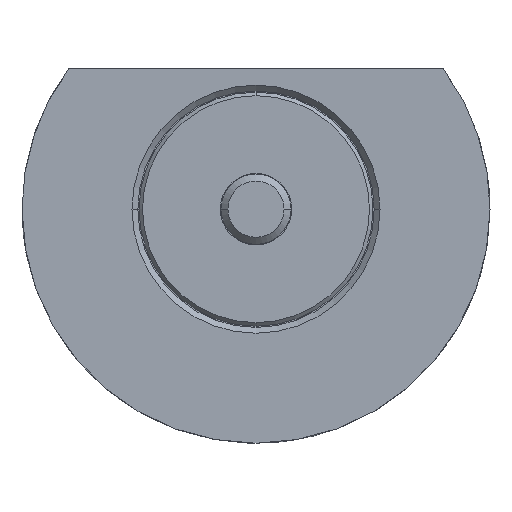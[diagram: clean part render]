
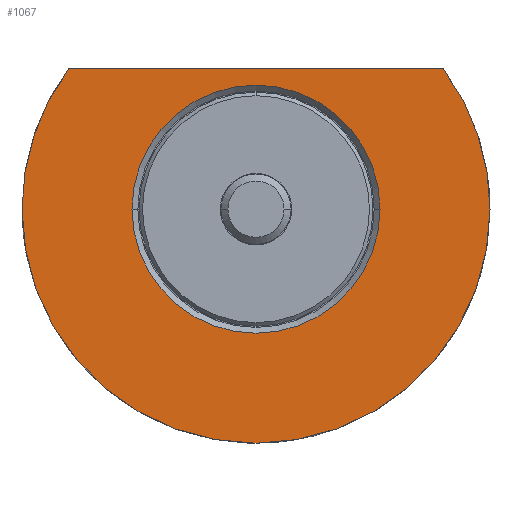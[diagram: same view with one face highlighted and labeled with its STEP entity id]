
A CAD part, front view. The second image highlights one B-rep face of the part: STEP entity #1067.
In plain terms, the highlighted planar face has unit normal (0, -1, 0).
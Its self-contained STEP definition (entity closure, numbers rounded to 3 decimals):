
#53 = EDGE_CURVE ( 'NONE', #1656, #985, #1366, .T. ) ;
#123 = DIRECTION ( 'NONE',  ( 0., 1., 0. ) ) ;
#125 = EDGE_LOOP ( 'NONE', ( #807, #2314, #851, #1103 ) ) ;
#203 = AXIS2_PLACEMENT_3D ( 'NONE', #419, #2456, #1895 ) ;
#204 = ORIENTED_EDGE ( 'NONE', *, *, #360, .T. ) ;
#315 = AXIS2_PLACEMENT_3D ( 'NONE', #2117, #123, #936 ) ;
#360 = EDGE_CURVE ( 'NONE', #985, #1656, #1290, .T. ) ;
#374 = CIRCLE ( 'NONE', #1338, 20. ) ;
#389 = VERTEX_POINT ( 'NONE', #1474 ) ;
#419 = CARTESIAN_POINT ( 'NONE',  ( 0., -10., 0. ) ) ;
#447 = DIRECTION ( 'NONE',  ( 0., 1., 0. ) ) ;
#457 = CARTESIAN_POINT ( 'NONE',  ( 16.001, -10., 11.999 ) ) ;
#504 = PLANE ( 'NONE',  #1166 ) ;
#594 = CIRCLE ( 'NONE', #203, 20. ) ;
#641 = DIRECTION ( 'NONE',  ( -1., 0., 0. ) ) ;
#655 = CARTESIAN_POINT ( 'NONE',  ( 0., -10., 0. ) ) ;
#677 = DIRECTION ( 'NONE',  ( -1., 0., 0. ) ) ;
#693 = EDGE_LOOP ( 'NONE', ( #788, #204 ) ) ;
#723 = FACE_OUTER_BOUND ( 'NONE', #125, .T. ) ;
#733 = FACE_BOUND ( 'NONE', #693, .T. ) ;
#788 = ORIENTED_EDGE ( 'NONE', *, *, #53, .T. ) ;
#793 = AXIS2_PLACEMENT_3D ( 'NONE', #655, #447, #641 ) ;
#807 = ORIENTED_EDGE ( 'NONE', *, *, #1810, .F. ) ;
#825 = DIRECTION ( 'NONE',  ( 0., 1., 0. ) ) ;
#851 = ORIENTED_EDGE ( 'NONE', *, *, #915, .F. ) ;
#866 = LINE ( 'NONE', #1666, #2218 ) ;
#915 = EDGE_CURVE ( 'NONE', #1619, #988, #2350, .T. ) ;
#936 = DIRECTION ( 'NONE',  ( -1., 0., 0. ) ) ;
#985 = VERTEX_POINT ( 'NONE', #1407 ) ;
#988 = VERTEX_POINT ( 'NONE', #1092 ) ;
#1006 = DIRECTION ( 'NONE',  ( -1., 0., 0. ) ) ;
#1067 = ADVANCED_FACE ( 'NONE', ( #733, #723 ), #504, .T. ) ;
#1092 = CARTESIAN_POINT ( 'NONE',  ( -16.001, -10., 11.999 ) ) ;
#1103 = ORIENTED_EDGE ( 'NONE', *, *, #1772, .F. ) ;
#1105 = CARTESIAN_POINT ( 'NONE',  ( -10.6, -10., 0. ) ) ;
#1113 = CARTESIAN_POINT ( 'NONE',  ( -20., -10., 0. ) ) ;
#1166 = AXIS2_PLACEMENT_3D ( 'NONE', #1105, #1324, #2373 ) ;
#1217 = CARTESIAN_POINT ( 'NONE',  ( 0., -10., 0. ) ) ;
#1290 = CIRCLE ( 'NONE', #793, 10.6 ) ;
#1324 = DIRECTION ( 'NONE',  ( 0., -1., 0. ) ) ;
#1338 = AXIS2_PLACEMENT_3D ( 'NONE', #1217, #825, #1625 ) ;
#1366 = CIRCLE ( 'NONE', #315, 10.6 ) ;
#1407 = CARTESIAN_POINT ( 'NONE',  ( -10.6, -10., 0. ) ) ;
#1474 = CARTESIAN_POINT ( 'NONE',  ( 20., -10., 0. ) ) ;
#1619 = VERTEX_POINT ( 'NONE', #1113 ) ;
#1625 = DIRECTION ( 'NONE',  ( -1., 0., 0. ) ) ;
#1656 = VERTEX_POINT ( 'NONE', #2433 ) ;
#1666 = CARTESIAN_POINT ( 'NONE',  ( -10.6, -10., 11.999 ) ) ;
#1772 = EDGE_CURVE ( 'NONE', #389, #1619, #374, .T. ) ;
#1794 = EDGE_CURVE ( 'NONE', #2348, #988, #866, .T. ) ;
#1810 = EDGE_CURVE ( 'NONE', #2348, #389, #594, .T. ) ;
#1895 = DIRECTION ( 'NONE',  ( -1., 0., 0. ) ) ;
#2035 = AXIS2_PLACEMENT_3D ( 'NONE', #2652, #2441, #1006 ) ;
#2117 = CARTESIAN_POINT ( 'NONE',  ( 0., -10., 0. ) ) ;
#2218 = VECTOR ( 'NONE', #677, 1000. ) ;
#2314 = ORIENTED_EDGE ( 'NONE', *, *, #1794, .T. ) ;
#2348 = VERTEX_POINT ( 'NONE', #457 ) ;
#2350 = CIRCLE ( 'NONE', #2035, 20. ) ;
#2373 = DIRECTION ( 'NONE',  ( 1., 0., 0. ) ) ;
#2433 = CARTESIAN_POINT ( 'NONE',  ( 10.6, -10., 0. ) ) ;
#2441 = DIRECTION ( 'NONE',  ( 0., 1., 0. ) ) ;
#2456 = DIRECTION ( 'NONE',  ( 0., 1., 0. ) ) ;
#2652 = CARTESIAN_POINT ( 'NONE',  ( 0., -10., 0. ) ) ;
